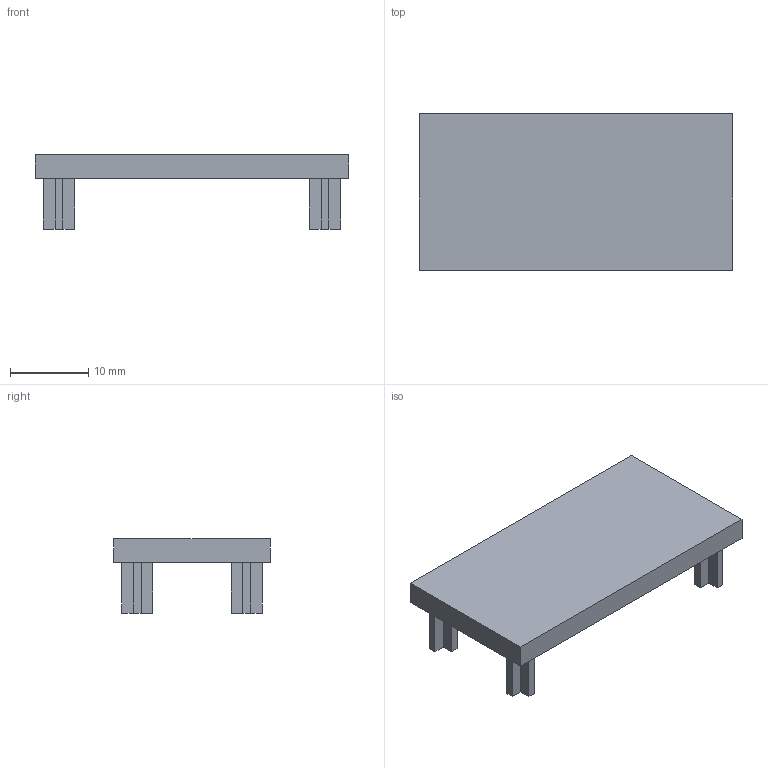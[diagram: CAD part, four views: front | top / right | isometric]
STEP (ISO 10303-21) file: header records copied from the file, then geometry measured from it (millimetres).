
FILE_DESCRIPTION(/* description */ ('Unknown'),/* implementation_level */ '2;1');
FILE_NAME(/* name */ 'CAP2040',/* time_stamp */ '2026-08-31T14:03:59+08:00',/* author */ ('Unknown'),/* organization */ ('Unknown'),/* preprocessor_version */ 'ST-DEVELOPER v16.7',/* originating_system */ 'DEX',/* authorisation */ $);
FILE_SCHEMA (('AUTOMOTIVE_DESIGN {1 0 10303 214 3 1 1}'));
Length unit declared in the file: millimetre
Products named in the file (1): Part1
Bounding box: 40 x 20 x 9.5 mm (x, y, z)
Volume: 1270 mm3; surface area: 2696 mm2
Topology: 1 solids, 1 shells, 75 faces, 200 edges, 128 vertices
Faces by surface type: plane 75
Entity records: 2296 total; most frequent: CARTESIAN_POINT 404, ORIENTED_EDGE 400, DIRECTION 352, EDGE_CURVE 200, LINE 200, VECTOR 200, VERTEX_POINT 128, EDGE_LOOP 76
